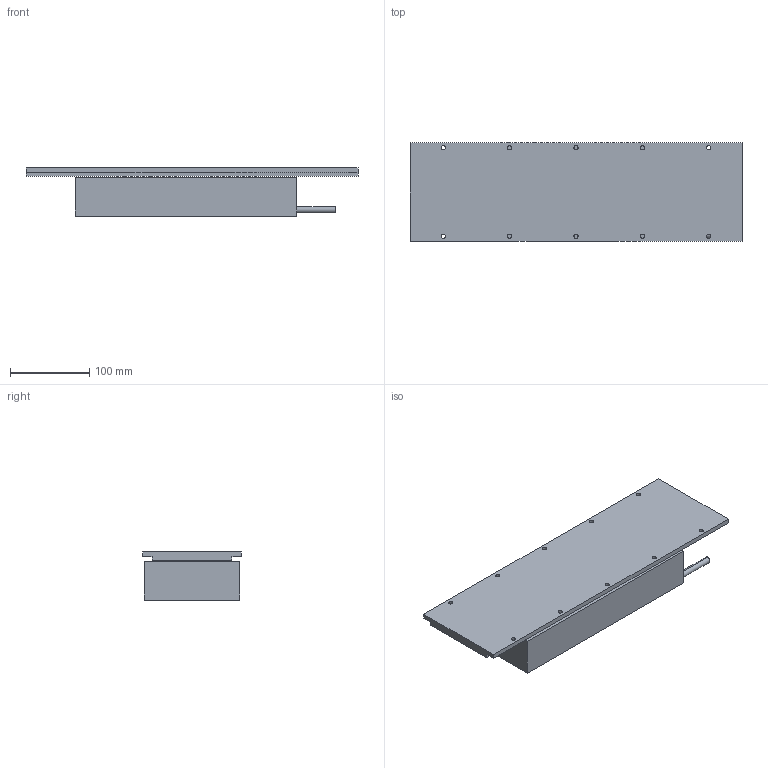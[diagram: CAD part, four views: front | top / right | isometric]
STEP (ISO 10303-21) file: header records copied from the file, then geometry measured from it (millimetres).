
FILE_DESCRIPTION (( 'STEP AP214' ), '1' );
FILE_NAME ('FLM-121-280蚾饜极.STEP', '2022-05-12T08:06:57', ( 'Microsoft' ), ( 'Microsoft' ), 'SwSTEP 2.0', 'SolidWorks 2016', '' );
FILE_SCHEMA (( 'AUTOMOTIVE_DESIGN' ));
Length unit declared in the file: millimetre
Products named in the file (3): FLM-121-280蚾饜极; TLM-125-L420; FLM-121-280
Assembly tree (2 placements, depth 2):
  FLM-121-280蚾饜极
    FLM-121-280
    TLM-125-L420
Bounding box: 420 x 125 x 61.1 mm (x, y, z)
Volume: 2187377.4 mm3; surface area: 227810.8 mm2
Topology: 2 solids, 2 shells, 231 faces, 540 edges, 297 vertices
Faces by surface type: cone 108, cylinder 96, plane 27
Entity records: 6922 total; most frequent: DIRECTION 1204, CARTESIAN_POINT 1019, ORIENTED_EDGE 972, EDGE_CURVE 486, AXIS2_PLACEMENT_3D 482, VERTEX_POINT 297, EDGE_LOOP 289, CIRCLE 246
